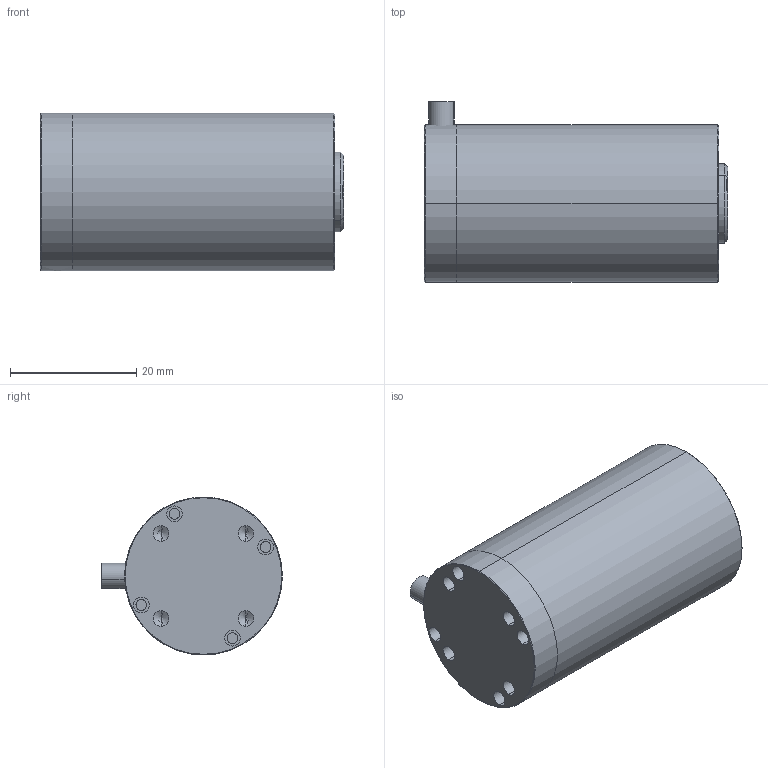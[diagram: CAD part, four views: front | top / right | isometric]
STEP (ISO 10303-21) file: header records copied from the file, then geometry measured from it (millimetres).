
FILE_DESCRIPTION (( 'STEP AP203' ), '1' );
FILE_NAME ('S31.T4蚾饜芞.STEP', '2024-08-20T07:56:23', ( '' ), ( '' ), 'SwSTEP 2.0', 'SolidWorks 2016', '' );
FILE_SCHEMA (( 'CONFIG_CONTROL_DESIGN' ));
Length unit declared in the file: millimetre
Products named in the file (1): S31.T4蚾饜芞
Bounding box: 48 x 28.63 x 25 mm (x, y, z)
Volume: 23078.7 mm3; surface area: 6337.5 mm2
Topology: 3 solids, 3 shells, 142 faces, 360 edges, 226 vertices
Faces by surface type: cylinder 73, plane 51, cone 18
Entity records: 4477 total; most frequent: CARTESIAN_POINT 899, DIRECTION 780, ORIENTED_EDGE 696, EDGE_CURVE 348, AXIS2_PLACEMENT_3D 305, VERTEX_POINT 226, VECTOR 170, LINE 170
